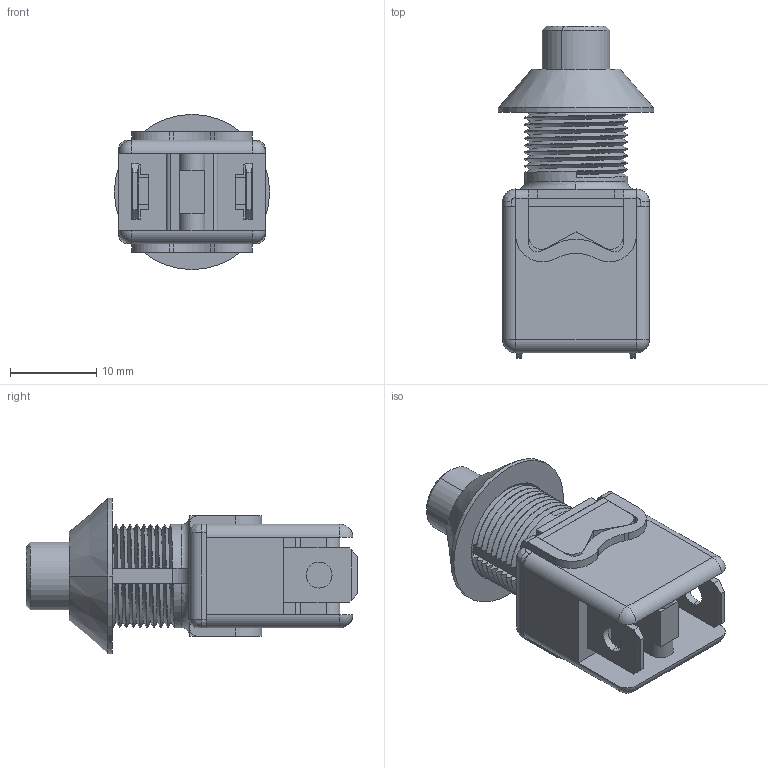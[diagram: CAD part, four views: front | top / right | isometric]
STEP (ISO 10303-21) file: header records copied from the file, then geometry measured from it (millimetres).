
FILE_DESCRIPTION((''),'2;1');
FILE_NAME('1213MC_ASM','2011-03-25T',('snouilhan'),(''),'PRO/ENGINEER BY PARAMETRIC TECHNOLOGY CORPORATION, 2009440','PRO/ENGINEER BY PARAMETRIC TECHNOLOGY CORPORATION, 2009440','');
FILE_SCHEMA(('CONFIG_CONTROL_DESIGN'));
Length unit declared in the file: millimetre
Products named in the file (8): 10-52; 10-58; 10-64-5; U1866; 10-604-0; 10-45-0; 10-601; 1213MC_ASM
Assembly tree (8 placements, depth 2):
  1213MC_ASM
    10-52
    10-58
    10-64-5
    U1866
    10-604-0
    10-45-0  x2
    10-601
Bounding box: 18 x 38.5 x 18 mm (x, y, z)
Volume: 3810.8 mm3; surface area: 6999.4 mm2
Topology: 8 solids, 8 shells, 497 faces, 1329 edges, 856 vertices
Faces by surface type: plane 287, cylinder 129, bspline 36, torus 23, cone 18, sphere 4
Entity records: 31685 total; most frequent: CARTESIAN_POINT 20091, ORIENTED_EDGE 2484, DIRECTION 2243, EDGE_CURVE 1242, VERTEX_POINT 800, VECTOR 767, LINE 767, AXIS2_PLACEMENT_3D 738
